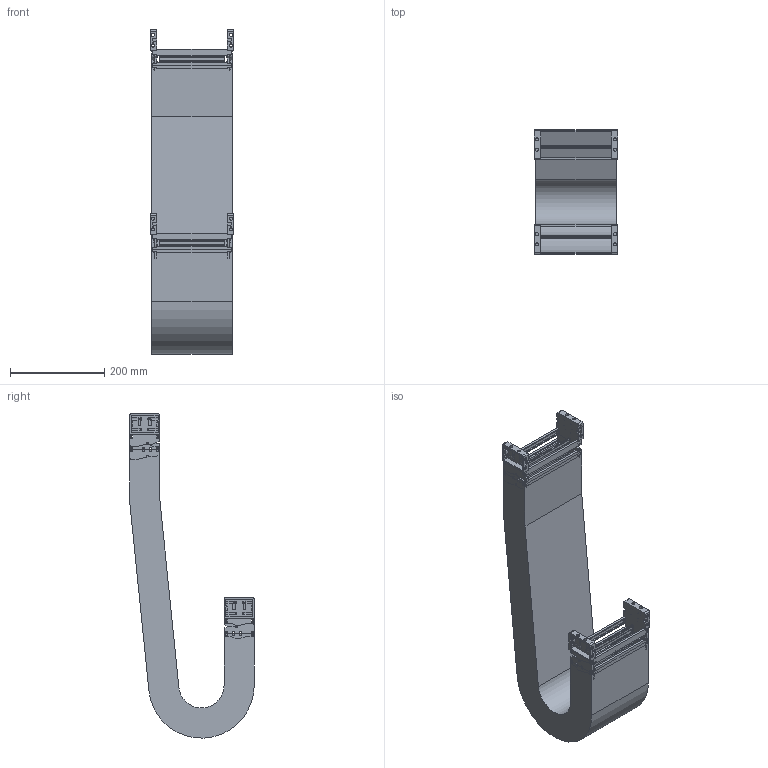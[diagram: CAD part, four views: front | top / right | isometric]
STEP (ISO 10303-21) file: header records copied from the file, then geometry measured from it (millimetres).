
FILE_DESCRIPTION((''),'2;1');
FILE_NAME('KST-50150-075_ASM','2017-12-08T',('KUNI004K'),(''),'PRO/ENGINEER BY PARAMETRIC TECHNOLOGY CORPORATION, 2015200','PRO/ENGINEER BY PARAMETRIC TECHNOLOGY CORPORATION, 2015200','');
FILE_SCHEMA(('AUTOMOTIVE_DESIGN { 1 0 10303 214 1 1 1 1 }'));
Length unit declared in the file: millimetre
Products named in the file (13): 50FBR; 50FBL; 40150C; KST50FB_W150_ASM; KST50075R; KST50075L; 40150H; KST50150-075_1_ASM; KST50150_R75_BODY; 50MBR; 50MBL; KST50MB_W150_ASM; KST-50150-075_ASM
Assembly tree (19 placements, depth 3):
  KST-50150-075_ASM
    KST50FB_W150_ASM
      50FBR
      50FBL
      40150C  x2
    KST50150-075_1_ASM  x2
      KST50075R
      KST50075L
      40150C
      40150H
    KST50150_R75_BODY
    KST50MB_W150_ASM
      50MBR
      50MBL
      40150C  x2
Bounding box: 178 x 264 x 687.41 mm (x, y, z)
Volume: 3139549.3 mm3; surface area: 1195778.8 mm2
Topology: 21 solids, 21 shells, 3032 faces, 8334 edges, 5372 vertices
Faces by surface type: plane 1606, cylinder 1050, bspline 308, torus 68
Entity records: 71538 total; most frequent: CARTESIAN_POINT 14333, ORIENTED_EDGE 7688, DIRECTION 6980, PRESENTATION_STYLE_ASSIGNMENT 5240, STYLED_ITEM 5240, CURVE_STYLE 3844, EDGE_CURVE 3844, VECTOR 2504
